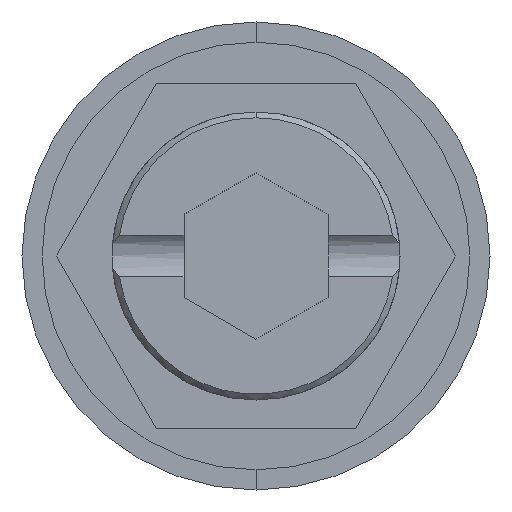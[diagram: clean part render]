
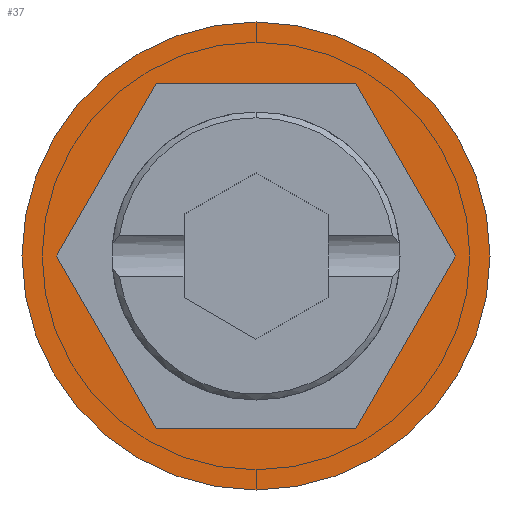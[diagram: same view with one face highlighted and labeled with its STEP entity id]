
A CAD part, front view. The second image highlights one B-rep face of the part: STEP entity #37.
In plain terms, the highlighted planar face has unit normal (0, -1, 0).
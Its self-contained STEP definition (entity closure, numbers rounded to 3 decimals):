
#32 = CARTESIAN_POINT ( 'NONE',  ( 0., 0., 0. ) ) ;
#36 = DIRECTION ( 'NONE',  ( 0., -1., 0. ) ) ;
#37 = ADVANCED_FACE ( 'NONE', ( #1356, #1350 ), #2047, .T. ) ;
#55 = DIRECTION ( 'NONE',  ( 0., 0., -1. ) ) ;
#60 = CARTESIAN_POINT ( 'NONE',  ( 0., 0., 8.125 ) ) ;
#69 = LINE ( 'NONE', #1422, #226 ) ;
#147 = DIRECTION ( 'NONE',  ( 0., 0., -1. ) ) ;
#226 = VECTOR ( 'NONE', #1301, 1000. ) ;
#267 = CARTESIAN_POINT ( 'NONE',  ( 0., 0., 0. ) ) ;
#329 = CARTESIAN_POINT ( 'NONE',  ( 0., 0., -8.125 ) ) ;
#333 = CARTESIAN_POINT ( 'NONE',  ( 3.464, 0., 6. ) ) ;
#334 = CARTESIAN_POINT ( 'NONE',  ( 6.928, 0., 0. ) ) ;
#372 = DIRECTION ( 'NONE',  ( -1., 0., 0. ) ) ;
#413 = CARTESIAN_POINT ( 'NONE',  ( -3.464, 0., 6. ) ) ;
#414 = DIRECTION ( 'NONE',  ( -0.5, 0., 0.866 ) ) ;
#422 = VERTEX_POINT ( 'NONE', #561 ) ;
#456 = CARTESIAN_POINT ( 'NONE',  ( 6.928, 0., 0. ) ) ;
#468 = EDGE_LOOP ( 'NONE', ( #1717, #1323, #1897, #1159, #1190, #1736 ) ) ;
#483 = VERTEX_POINT ( 'NONE', #413 ) ;
#505 = CARTESIAN_POINT ( 'NONE',  ( 3.464, 0., -6. ) ) ;
#547 = VERTEX_POINT ( 'NONE', #329 ) ;
#561 = CARTESIAN_POINT ( 'NONE',  ( -3.464, 0., -6. ) ) ;
#600 = VERTEX_POINT ( 'NONE', #334 ) ;
#605 = DIRECTION ( 'NONE',  ( 0.5, 0., 0.866 ) ) ;
#610 = VECTOR ( 'NONE', #898, 1000. ) ;
#657 = CARTESIAN_POINT ( 'NONE',  ( 3.464, 0., -6. ) ) ;
#702 = CIRCLE ( 'NONE', #1002, 8.125 ) ;
#730 = AXIS2_PLACEMENT_3D ( 'NONE', #32, #36, #55 ) ;
#761 = VECTOR ( 'NONE', #605, 1000. ) ;
#776 = LINE ( 'NONE', #456, #820 ) ;
#782 = VECTOR ( 'NONE', #372, 1000. ) ;
#793 = LINE ( 'NONE', #333, #782 ) ;
#820 = VECTOR ( 'NONE', #414, 1000. ) ;
#874 = CARTESIAN_POINT ( 'NONE',  ( -6.928, 0., 0. ) ) ;
#898 = DIRECTION ( 'NONE',  ( 0.5, 0., -0.866 ) ) ;
#1002 = AXIS2_PLACEMENT_3D ( 'NONE', #1321, #1324, #1331 ) ;
#1031 = CARTESIAN_POINT ( 'NONE',  ( -6.928, 0., 0. ) ) ;
#1108 = CARTESIAN_POINT ( 'NONE',  ( 3.464, 0., 6. ) ) ;
#1159 = ORIENTED_EDGE ( 'NONE', *, *, #1545, .F. ) ;
#1190 = ORIENTED_EDGE ( 'NONE', *, *, #1580, .F. ) ;
#1197 = VERTEX_POINT ( 'NONE', #60 ) ;
#1301 = DIRECTION ( 'NONE',  ( -0.5, 0., -0.866 ) ) ;
#1321 = CARTESIAN_POINT ( 'NONE',  ( 0., 0., 0. ) ) ;
#1323 = ORIENTED_EDGE ( 'NONE', *, *, #2096, .F. ) ;
#1324 = DIRECTION ( 'NONE',  ( 0., -1., 0. ) ) ;
#1331 = DIRECTION ( 'NONE',  ( 0., 0., -1. ) ) ;
#1350 = FACE_OUTER_BOUND ( 'NONE', #1893, .T. ) ;
#1356 = FACE_BOUND ( 'NONE', #468, .T. ) ;
#1403 = AXIS2_PLACEMENT_3D ( 'NONE', #267, #2147, #147 ) ;
#1422 = CARTESIAN_POINT ( 'NONE',  ( -3.464, 0., 6. ) ) ;
#1455 = VERTEX_POINT ( 'NONE', #505 ) ;
#1494 = LINE ( 'NONE', #874, #610 ) ;
#1545 = EDGE_CURVE ( 'NONE', #1749, #483, #793, .T. ) ;
#1560 = CIRCLE ( 'NONE', #730, 8.125 ) ;
#1574 = VECTOR ( 'NONE', #2127, 1000. ) ;
#1577 = LINE ( 'NONE', #2114, #1574 ) ;
#1580 = EDGE_CURVE ( 'NONE', #600, #1749, #776, .T. ) ;
#1654 = EDGE_CURVE ( 'NONE', #1455, #600, #1846, .T. ) ;
#1717 = ORIENTED_EDGE ( 'NONE', *, *, #1991, .F. ) ;
#1736 = ORIENTED_EDGE ( 'NONE', *, *, #1654, .F. ) ;
#1749 = VERTEX_POINT ( 'NONE', #1108 ) ;
#1782 = EDGE_CURVE ( 'NONE', #1197, #547, #702, .T. ) ;
#1832 = ORIENTED_EDGE ( 'NONE', *, *, #1782, .T. ) ;
#1846 = LINE ( 'NONE', #657, #761 ) ;
#1893 = EDGE_LOOP ( 'NONE', ( #2034, #1832 ) ) ;
#1897 = ORIENTED_EDGE ( 'NONE', *, *, #2169, .F. ) ;
#1991 = EDGE_CURVE ( 'NONE', #422, #1455, #1577, .T. ) ;
#2001 = EDGE_CURVE ( 'NONE', #547, #1197, #1560, .T. ) ;
#2034 = ORIENTED_EDGE ( 'NONE', *, *, #2001, .T. ) ;
#2047 = PLANE ( 'NONE',  #1403 ) ;
#2096 = EDGE_CURVE ( 'NONE', #2126, #422, #1494, .T. ) ;
#2114 = CARTESIAN_POINT ( 'NONE',  ( -3.464, 0., -6. ) ) ;
#2126 = VERTEX_POINT ( 'NONE', #1031 ) ;
#2127 = DIRECTION ( 'NONE',  ( 1., 0., 0. ) ) ;
#2147 = DIRECTION ( 'NONE',  ( 0., -1., 0. ) ) ;
#2169 = EDGE_CURVE ( 'NONE', #483, #2126, #69, .T. ) ;
